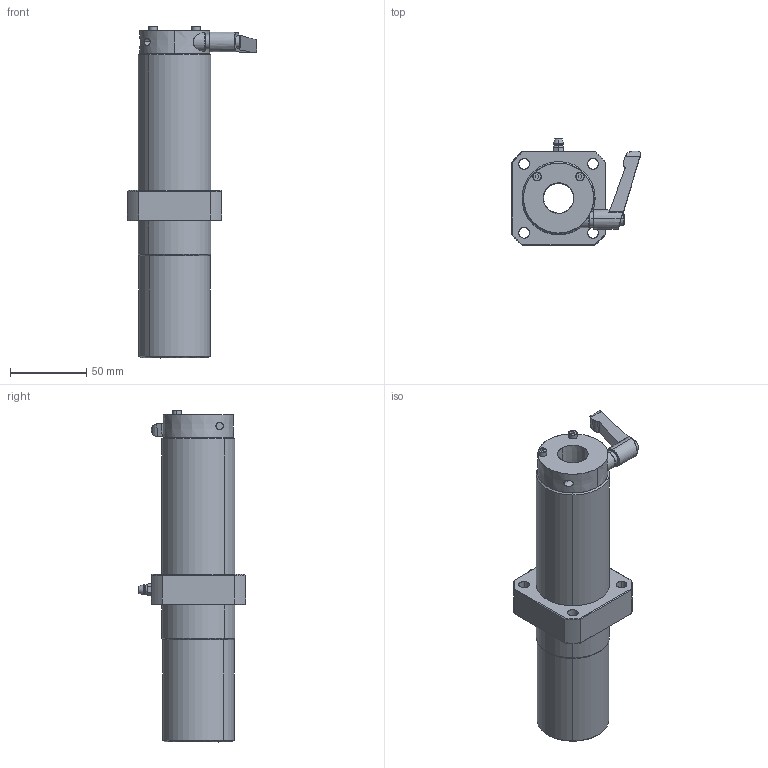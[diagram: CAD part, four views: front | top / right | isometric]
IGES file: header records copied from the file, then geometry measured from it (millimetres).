
Start section: SolidWorks IGES file using analytic representation for surfaces
Global section: file name: C:\Users\yamad\Desktop\IGES\LFWLC20-C.IGS; native system: SolidWorks 2019; preprocessor: SolidWorks 2019; author: yamad; date: 230626.174200; units: millimetre
Bounding box: 84.9 x 70.39 x 218 mm (x, y, z)
Surface area: 67427.4 mm2 (no closed solid volume)
Topology: 0 solids, 0 shells, 262 faces, 5649 edges, 5647 vertices
Faces by surface type: bspline 133, revolution 129
